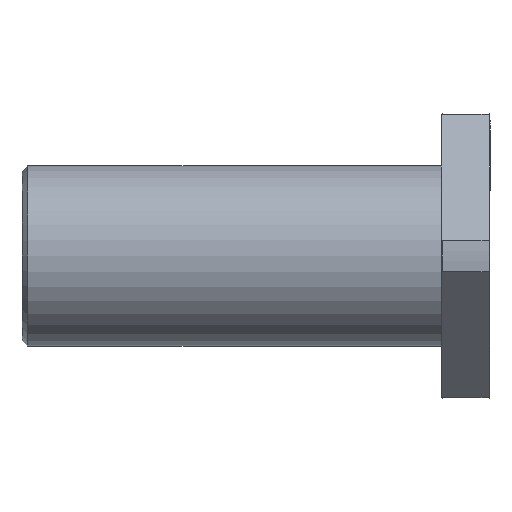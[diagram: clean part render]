
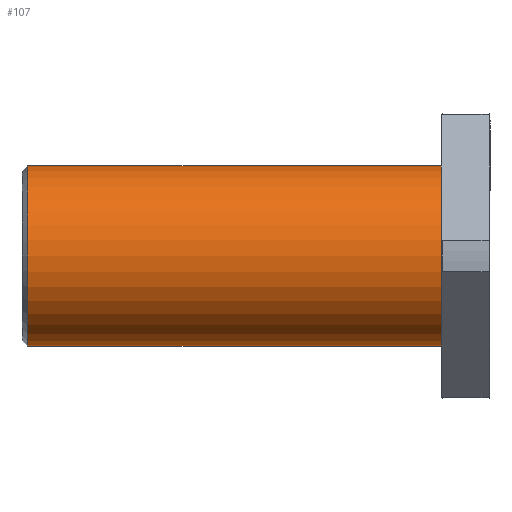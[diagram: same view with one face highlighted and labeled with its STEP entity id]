
A CAD part, front view. The second image highlights one B-rep face of the part: STEP entity #107.
In plain terms, the highlighted cylindrical face has radius 26 mm (diameter 52 mm), a full revolution.
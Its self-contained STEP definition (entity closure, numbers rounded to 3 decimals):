
#107=ADVANCED_FACE('',(#199,#200),#201,.T.);
#199=FACE_OUTER_BOUND('',#293,.T.);
#200=FACE_OUTER_BOUND('',#294,.T.);
#201=CYLINDRICAL_SURFACE('',#295,26.0);
#293=EDGE_LOOP('',(#522));
#294=EDGE_LOOP('',(#523));
#295=AXIS2_PLACEMENT_3D('',#524,#525,#526);
#522=ORIENTED_EDGE('',*,*,#541,.F.);
#523=ORIENTED_EDGE('',*,*,#600,.F.);
#524=CARTESIAN_POINT('',(-14.0,0.0,0.0));
#525=DIRECTION('',(1.0,-0.0,-0.0));
#526=DIRECTION('',(0.0,0.0,1.0));
#541=EDGE_CURVE('',#613,#613,#614,.T.);
#600=EDGE_CURVE('',#715,#715,#716,.T.);
#613=VERTEX_POINT('',#735);
#614=CIRCLE('',#736,26.0);
#715=VERTEX_POINT('',#901);
#716=CIRCLE('',#902,26.0);
#735=CARTESIAN_POINT('',(-14.0,0.0,-26.0));
#736=AXIS2_PLACEMENT_3D('',#924,#925,#926);
#901=CARTESIAN_POINT('',(-133.35,0.0,26.0));
#902=AXIS2_PLACEMENT_3D('',#1021,#1022,#1023);
#924=CARTESIAN_POINT('',(-14.0,0.0,0.0));
#925=DIRECTION('',(1.0,0.0,0.0));
#926=DIRECTION('',(0.0,0.0,-1.0));
#1021=CARTESIAN_POINT('',(-133.35,0.0,0.0));
#1022=DIRECTION('',(-1.0,0.0,0.0));
#1023=DIRECTION('',(0.0,0.0,1.0));
